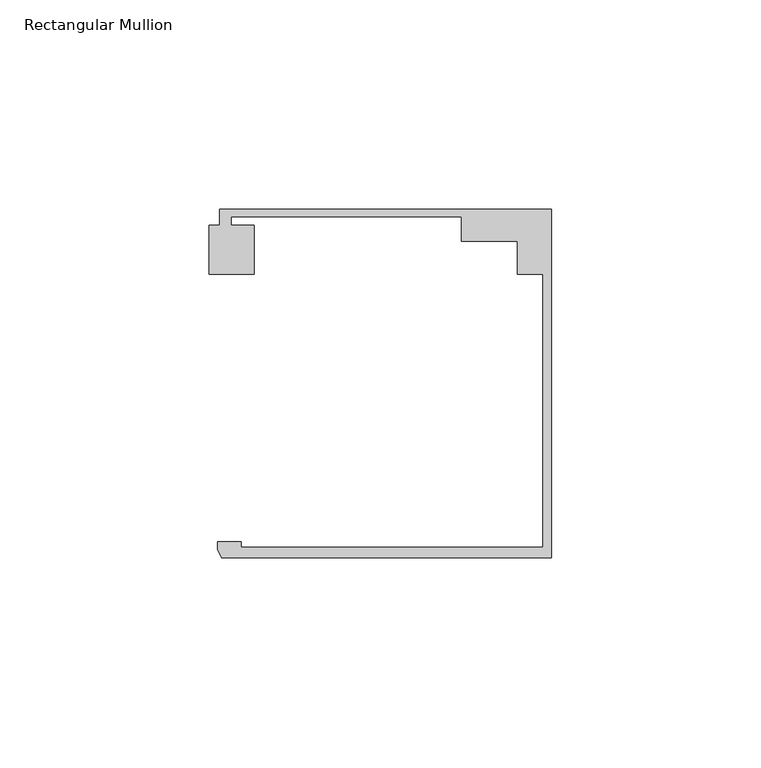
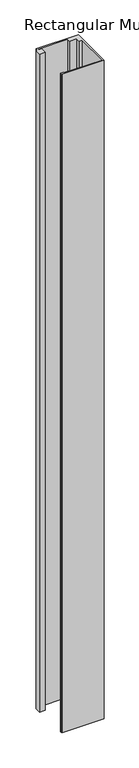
"""IFC4 building model written with IfcOpenShell, lengths in millimetres: member geometry, Rectangular Mullion : Danpal_Airpt_End-Mullion_B1."""

from ifc_helpers import new_model, si_unit, frame, origin, place, context, project, spatial, polyline, outline, extrude, source, transform, mapped, element, save


def rectangular_mullion_2210d2ad(model_context):
    return source(origin(), model_context, "Body", "SweptSolid", [
        extrude(outline(polyline([(-74.2474668, -74.9940824), (-2.0000001, -74.9940824), (-2.0000001, -9.7188964), (-8.1, -9.7188964), (-8.1, -1.8818054), (-21.5478166, -1.8818054), (-21.5478166, 4.0051512), (-76.6478166, 4.0051512), (-76.6478166, 2.0051513), (-71.1433532, 2.0051513), (-71.1433532, -9.6875514), (-81.8592324, -9.6875514), (-81.8592324, 2.0051513), (-79.3474874, 2.0051513), (-79.3474874, 5.8051514), (0.0, 5.8051514), (0.0, -77.4940825), (-78.8515009, -77.4940825), (-79.7784606, -75.5472671), (-79.7784606, -73.6940824), (-74.2474668, -73.6940824), (-74.2474668, -74.9940824)])), frame((0.0, 0.0, -1300.0), z_axis=(0.0, 0.0, 1.0), x_axis=(1.0, 0.0, 0.0)), (0.0, 0.0, 1.0), 1300.0),
    ])


if __name__ == "__main__":
    model = new_model("IFC4")
    model_context = context("Model", 3, world=origin())
    ifc_project = project(units=[si_unit("LENGTHUNIT", "METRE", prefix="MILLI")], contexts=[model_context])
    site = spatial("IfcSite", under=ifc_project)
    building = spatial("IfcBuilding", under=site)
    placement = place(None, origin())
    rectangular_mullion_shape = rectangular_mullion_2210d2ad(model_context)
    element("IfcMember", 1, ObjectType="Rectangular Mullion : Danpal_Airpt_End-Mullion_B1", at=placement, inside=building, context=model_context, shape_type="MappedRepresentation", body=[
        mapped(rectangular_mullion_shape, transform((0.0, 0.0, 0.0), x_axis=(1.0, 0.0, 0.0), y_axis=(0.0, 1.0, 0.0), z_axis=(0.0, 0.0, 1.0))),
    ])
    save(model, "model.ifc")
